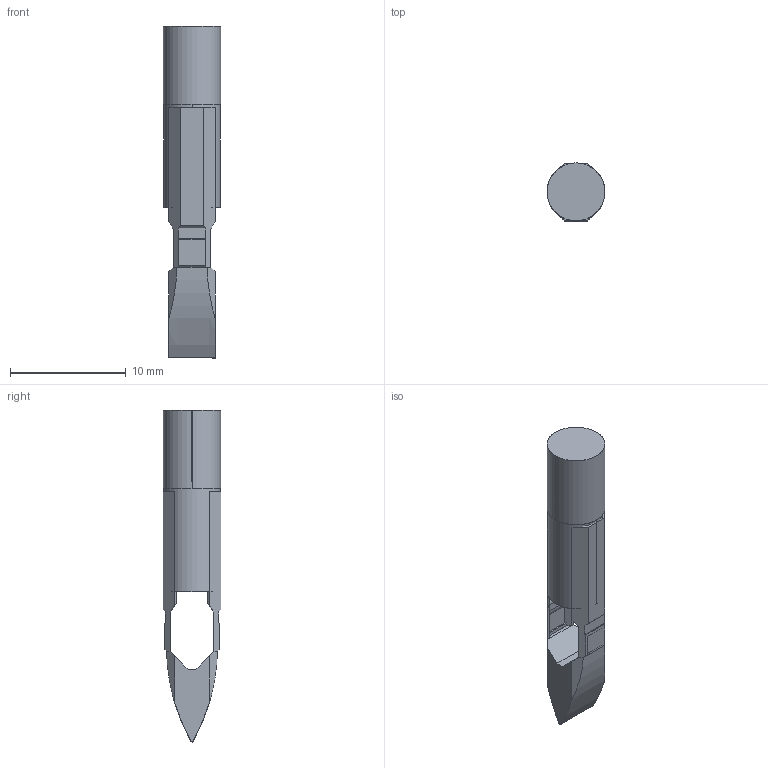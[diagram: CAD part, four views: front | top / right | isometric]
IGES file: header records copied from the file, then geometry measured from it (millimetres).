
Start section: SolidWorks IGES file using analytic representation for surfaces
Global section: file name: G:\Marl\DESIGN\Paul Robson\STEP-IGES FILES\209 Series\209 Series.IGS; native system: SolidWorks 2016; preprocessor: SolidWorks 2016; author: Paulr; date: 160803.095314; units: millimetre
Bounding box: 5 x 5 x 28.7 mm (x, y, z)
Surface area: 795.4 mm2 (no closed solid volume)
Topology: 0 solids, 0 shells, 83 faces, 662 edges, 670 vertices
Faces by surface type: bspline 68, revolution 15
